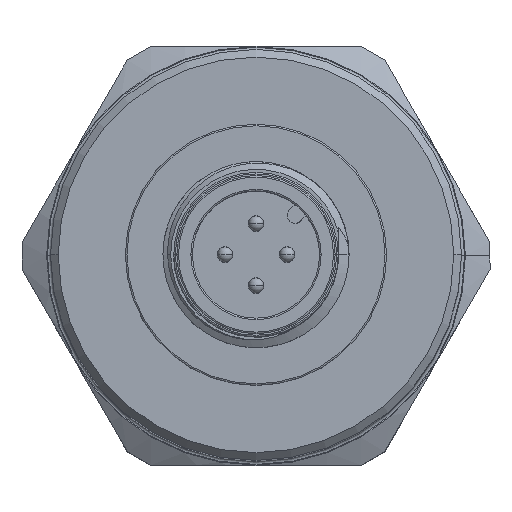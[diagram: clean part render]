
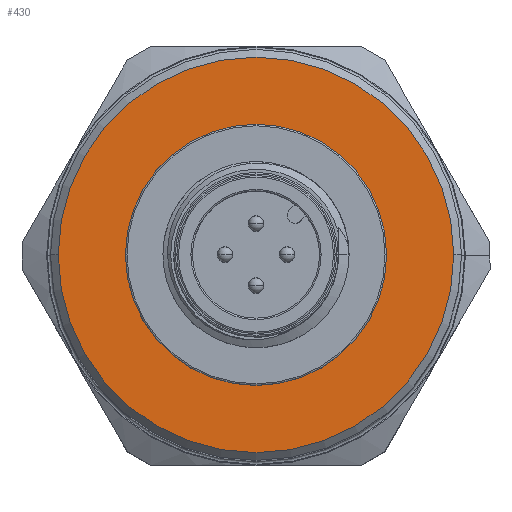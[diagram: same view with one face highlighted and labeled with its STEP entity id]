
A CAD part, top view. The second image highlights one B-rep face of the part: STEP entity #430.
In plain terms, the highlighted planar face has unit normal (0, 0, 1).
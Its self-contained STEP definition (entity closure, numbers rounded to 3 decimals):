
#22 = CIRCLE ( 'NONE', #1226, 12.75 ) ;
#81 = CARTESIAN_POINT ( 'NONE',  ( -8.42, 0., 45. ) ) ;
#216 = ORIENTED_EDGE ( 'NONE', *, *, #3125, .F. ) ;
#365 = DIRECTION ( 'NONE',  ( 1., 0., 0. ) ) ;
#422 = DIRECTION ( 'NONE',  ( 1., 0., 0. ) ) ;
#430 = ADVANCED_FACE ( 'NONE', ( #3951, #6027 ), #3033, .T. ) ;
#1226 = AXIS2_PLACEMENT_3D ( 'NONE', #2540, #4618, #5443 ) ;
#1293 = AXIS2_PLACEMENT_3D ( 'NONE', #5116, #1940, #422 ) ;
#1426 = EDGE_CURVE ( 'NONE', #3010, #5091, #22, .T. ) ;
#1669 = DIRECTION ( 'NONE',  ( 1., 0., 0. ) ) ;
#1694 = EDGE_LOOP ( 'NONE', ( #4260, #2327 ) ) ;
#1940 = DIRECTION ( 'NONE',  ( 0., 0., 1. ) ) ;
#1950 = DIRECTION ( 'NONE',  ( 1., 0., 0. ) ) ;
#2180 = CIRCLE ( 'NONE', #5124, 8.42 ) ;
#2327 = ORIENTED_EDGE ( 'NONE', *, *, #1426, .T. ) ;
#2358 = CARTESIAN_POINT ( 'NONE',  ( 12.75, 0., 45. ) ) ;
#2431 = EDGE_LOOP ( 'NONE', ( #2608, #216 ) ) ;
#2451 = EDGE_CURVE ( 'NONE', #4922, #5492, #2180, .T. ) ;
#2540 = CARTESIAN_POINT ( 'NONE',  ( 0., 0., 45. ) ) ;
#2608 = ORIENTED_EDGE ( 'NONE', *, *, #2451, .F. ) ;
#2711 = DIRECTION ( 'NONE',  ( 0., 0., 1. ) ) ;
#2763 = EDGE_CURVE ( 'NONE', #5091, #3010, #3718, .T. ) ;
#3010 = VERTEX_POINT ( 'NONE', #2358 ) ;
#3033 = PLANE ( 'NONE',  #1293 ) ;
#3125 = EDGE_CURVE ( 'NONE', #5492, #4922, #4916, .T. ) ;
#3424 = CARTESIAN_POINT ( 'NONE',  ( -12.75, 0., 45. ) ) ;
#3718 = CIRCLE ( 'NONE', #4595, 12.75 ) ;
#3951 = FACE_OUTER_BOUND ( 'NONE', #1694, .T. ) ;
#4065 = DIRECTION ( 'NONE',  ( 0., 0., 1. ) ) ;
#4260 = ORIENTED_EDGE ( 'NONE', *, *, #2763, .T. ) ;
#4409 = DIRECTION ( 'NONE',  ( 0., 0., 1. ) ) ;
#4595 = AXIS2_PLACEMENT_3D ( 'NONE', #5801, #2711, #1669 ) ;
#4618 = DIRECTION ( 'NONE',  ( 0., 0., 1. ) ) ;
#4916 = CIRCLE ( 'NONE', #5996, 8.42 ) ;
#4922 = VERTEX_POINT ( 'NONE', #81 ) ;
#5091 = VERTEX_POINT ( 'NONE', #3424 ) ;
#5116 = CARTESIAN_POINT ( 'NONE',  ( 0., 0., 45. ) ) ;
#5124 = AXIS2_PLACEMENT_3D ( 'NONE', #6614, #4409, #365 ) ;
#5443 = DIRECTION ( 'NONE',  ( 1., 0., 0. ) ) ;
#5492 = VERTEX_POINT ( 'NONE', #6190 ) ;
#5664 = CARTESIAN_POINT ( 'NONE',  ( 0., 0., 45. ) ) ;
#5801 = CARTESIAN_POINT ( 'NONE',  ( 0., 0., 45. ) ) ;
#5996 = AXIS2_PLACEMENT_3D ( 'NONE', #5664, #4065, #1950 ) ;
#6027 = FACE_BOUND ( 'NONE', #2431, .T. ) ;
#6190 = CARTESIAN_POINT ( 'NONE',  ( 8.42, 0., 45. ) ) ;
#6614 = CARTESIAN_POINT ( 'NONE',  ( 0., 0., 45. ) ) ;
